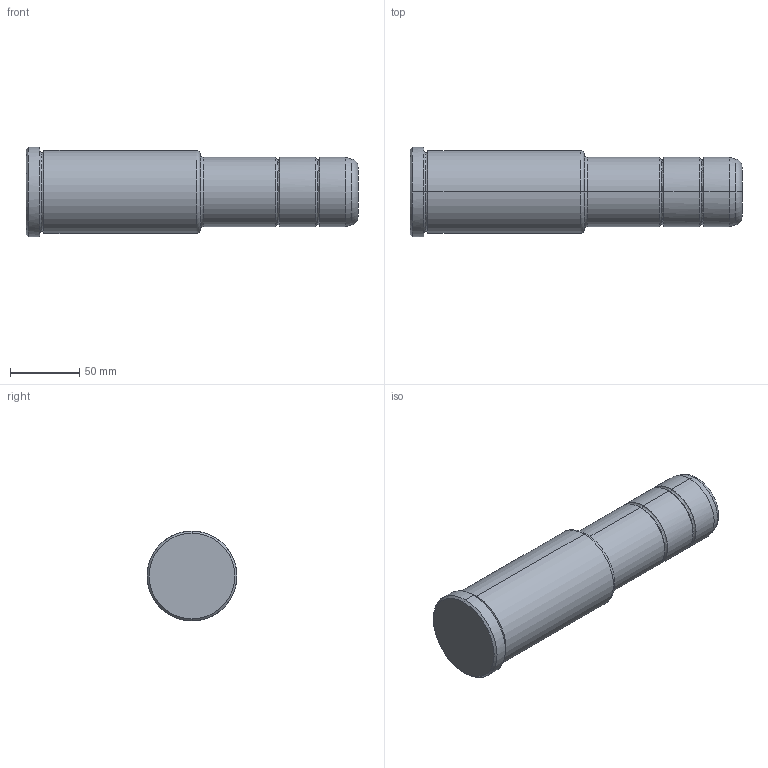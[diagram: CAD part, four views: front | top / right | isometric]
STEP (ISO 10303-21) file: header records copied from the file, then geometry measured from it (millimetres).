
FILE_DESCRIPTION(('CATIA V5 STEP Exchange'),'2;1');
FILE_NAME('C:\Users\Utente\Desktop\IO LAVORO\3D X SITO CF\X SITO\PLASTICA\351\351-50X126X240.stp','2021-11-08T18:51:44+00:00',('none'),('none'),'CATIA Version 5 Release 20 GA (IN-10)','CATIA V5 STEP AP203','none');
FILE_SCHEMA(('CONFIG_CONTROL_DESIGN'));
Length unit declared in the file: millimetre
Products named in the file (1): 351-50X126X240
Bounding box: 240 x 65 x 65 mm (x, y, z)
Volume: 580617.4 mm3; surface area: 48081.4 mm2
Topology: 1 solids, 1 shells, 35 faces, 98 edges, 66 vertices
Faces by surface type: torus 18, cylinder 10, cone 4, plane 3
Entity records: 1210 total; most frequent: CARTESIAN_POINT 276, ORIENTED_EDGE 196, DIRECTION 160, AXIS2_PLACEMENT_3D 112, EDGE_CURVE 98, CIRCLE 76, VERTEX_POINT 66, EDGE_LOOP 36
